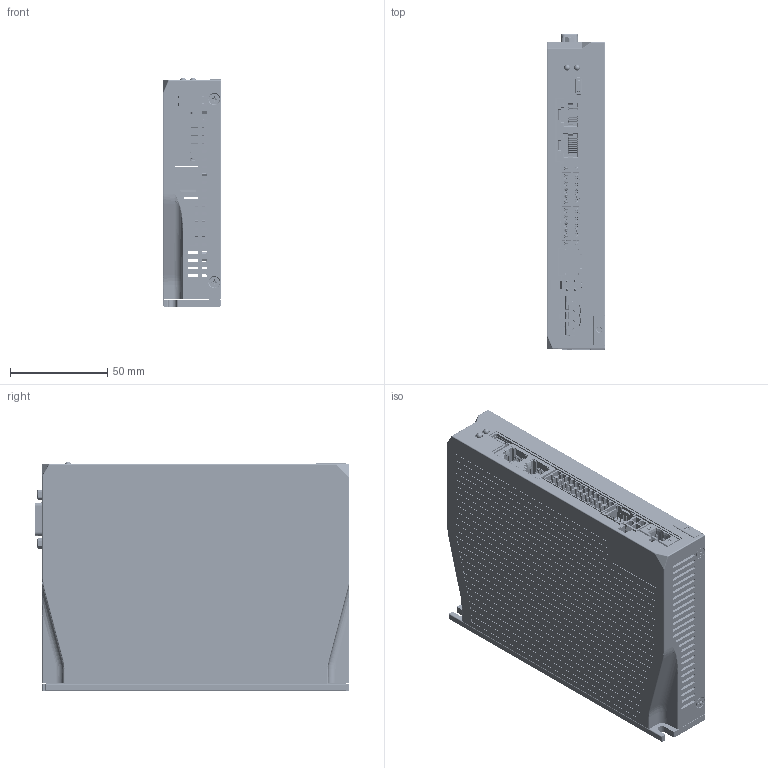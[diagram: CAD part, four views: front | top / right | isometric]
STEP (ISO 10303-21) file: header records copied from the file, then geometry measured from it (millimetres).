
FILE_DESCRIPTION((''),'2;1');
FILE_NAME('DSD400_2024_4_30_','2024-04-30T17:23:26',('Admin'),(''),'CREO PARAMETRIC BY PTC INC, 2020074','CREO PARAMETRIC BY PTC INC, 2020074','');
FILE_SCHEMA(('CONFIG_CONTROL_DESIGN','SHAPE_APPEARANCE_LAYERS_GROUPS'));
Products named in the file (1): DSD400_2024_4_30_
Bounding box: 30 x 161.93 x 117.8 mm (x, y, z)
Volume: 182601.1 mm3; surface area: 189291.5 mm2
Topology: 3 solids, 11 shells, 6477 faces, 18576 edges, 12173 vertices
Faces by surface type: plane 3591, cylinder 2170, torus 290, cone 239, bspline 145, sphere 42
Entity records: 294306 total; most frequent: CARTESIAN_POINT 90630, ORIENTED_EDGE 37028, DIRECTION 31708, EDGE_CURVE 18526, VERTEX_POINT 12173, VECTOR 11848, LINE 11848, AXIS2_PLACEMENT_3D 9930
